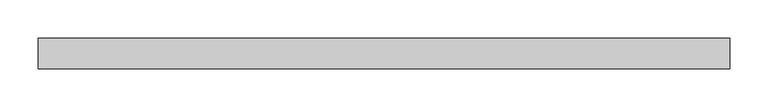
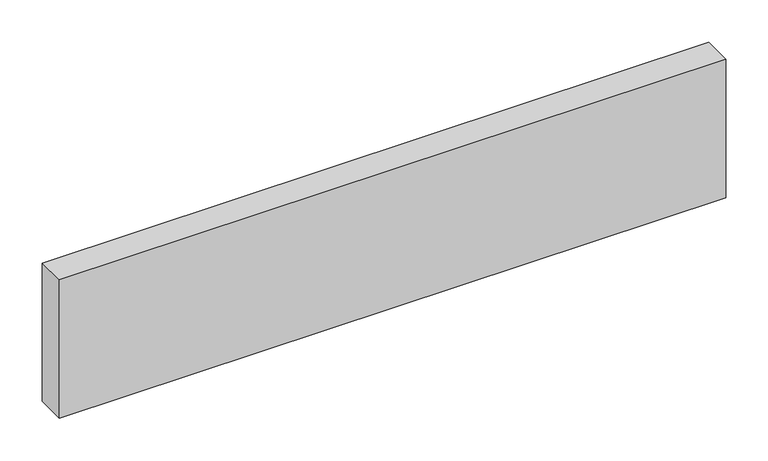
"""IFC4 building model written with IfcOpenShell, lengths in millimetres: plate geometry, Panneau système vide : Epaiss. 4cm."""

from ifc_helpers import new_model, si_unit, origin, origin_with_axes, place, context, project, spatial, polyline, outline, extrude, source, transform, mapped, element, save


def plate_c897394b(model_context):
    return source(origin(), model_context, "Body", "SweptSolid", [
        extrude(outline(polyline([(453.0, -20.0), (-453.0, -20.0), (-453.0, 20.0), (453.0, 20.0), (453.0, -20.0)])), origin_with_axes(), (0.0, 0.0, 1.0), 199.0),
    ])


if __name__ == "__main__":
    model = new_model("IFC4")
    model_context = context("Model", 3, world=origin())
    ifc_project = project(units=[si_unit("LENGTHUNIT", "METRE", prefix="MILLI")], contexts=[model_context])
    site = spatial("IfcSite", under=ifc_project)
    building = spatial("IfcBuilding", under=site)
    placement = place(None, origin())
    plate_shape = plate_c897394b(model_context)
    element("IfcPlate", 1, ObjectType="Panneau système vide : Epaiss. 4cm", at=placement, inside=building, context=model_context, shape_type="MappedRepresentation", body=[
        mapped(plate_shape, transform((0.0, 0.0, 0.0), x_axis=(1.0, 0.0, 0.0), y_axis=(0.0, 1.0, 0.0), z_axis=(0.0, 0.0, 1.0))),
    ])
    save(model, "model.ifc")
